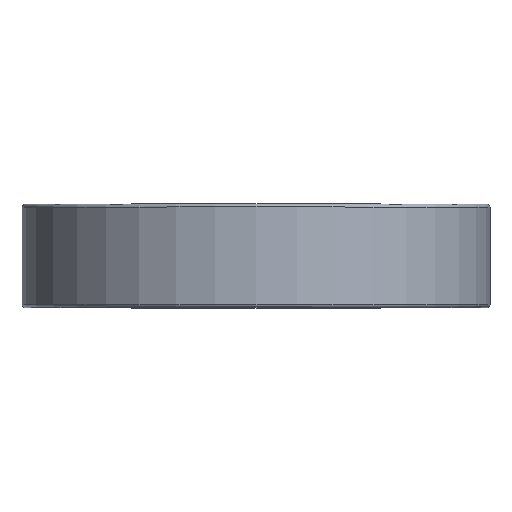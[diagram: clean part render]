
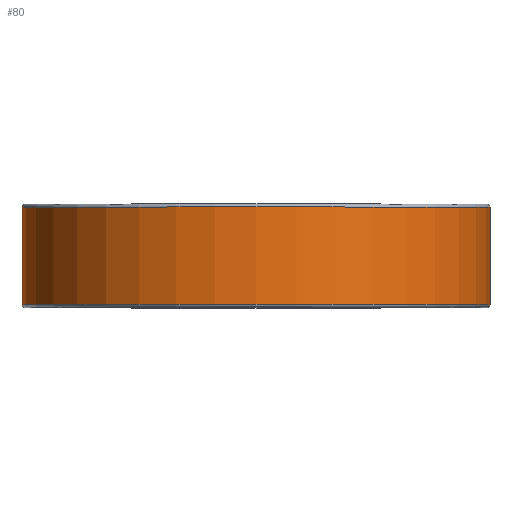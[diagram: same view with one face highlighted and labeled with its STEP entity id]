
A CAD part, top view. The second image highlights one B-rep face of the part: STEP entity #80.
In plain terms, the highlighted cylindrical face has radius 38.5 mm (diameter 77 mm), a full revolution.
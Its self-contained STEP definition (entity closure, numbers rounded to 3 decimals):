
#80=ADVANCED_FACE('',(#134,#136),#138,.T.);
#134=FACE_OUTER_BOUND('',#135,.T.);
#135=EDGE_LOOP('',(#167));
#136=FACE_OUTER_BOUND('',#137,.T.);
#137=EDGE_LOOP('',(#168));
#138=CYLINDRICAL_SURFACE('',#139,38.5);
#139=AXIS2_PLACEMENT_3D('',#140,#141,#142);
#140=CARTESIAN_POINT('',(0.,0.,0.));
#141=DIRECTION('',(0.,1.,0.));
#142=DIRECTION('',(-1.,0.,0.));
#167=ORIENTED_EDGE('',*,*,#177,.F.);
#168=ORIENTED_EDGE('',*,*,#178,.T.);
#177=EDGE_CURVE('',#187,#187,#188,.T.);
#178=EDGE_CURVE('',#189,#189,#190,.T.);
#187=VERTEX_POINT('',#211);
#188=CIRCLE('',#212,38.5);
#189=VERTEX_POINT('',#216);
#190=CIRCLE('',#217,38.5);
#211=CARTESIAN_POINT('',(-38.5,16.5,0.));
#212=AXIS2_PLACEMENT_3D('',#213,#214,#215);
#213=CARTESIAN_POINT('',(0.,16.5,0.));
#214=DIRECTION('',(0.,1.,0.));
#215=DIRECTION('',(-1.,0.,0.));
#216=CARTESIAN_POINT('',(-38.5,0.5,0.));
#217=AXIS2_PLACEMENT_3D('',#218,#219,#220);
#218=CARTESIAN_POINT('',(0.,0.5,0.));
#219=DIRECTION('',(0.,1.,0.));
#220=DIRECTION('',(-1.,0.,0.));
